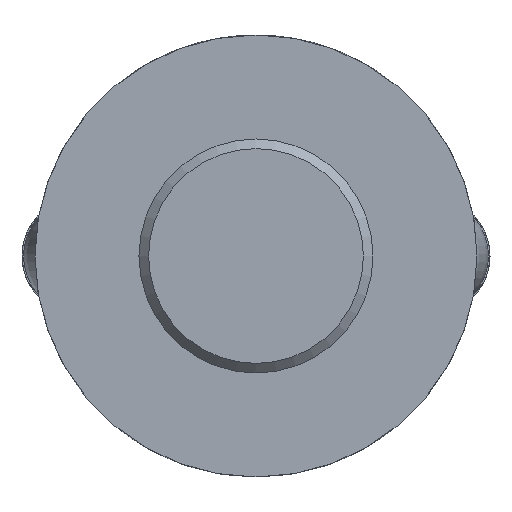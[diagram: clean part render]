
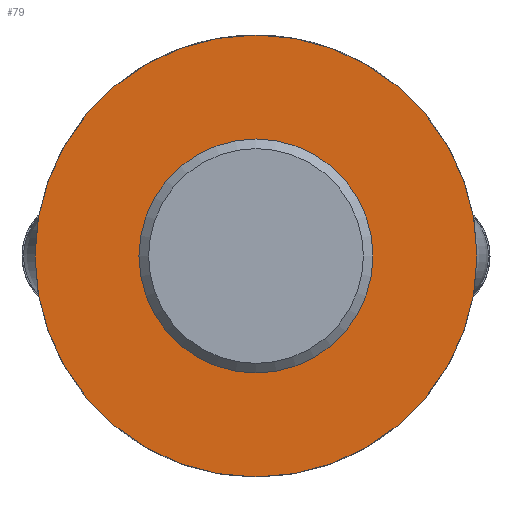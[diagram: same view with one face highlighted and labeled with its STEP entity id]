
A CAD part, front view. The second image highlights one B-rep face of the part: STEP entity #79.
In plain terms, the highlighted planar face has unit normal (0, -1, 0).
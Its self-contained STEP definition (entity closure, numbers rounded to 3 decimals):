
#79 = ADVANCED_FACE( '', ( #115, #116 ), #117, .F. );
#115 = FACE_BOUND( '', #186, .T. );
#116 = FACE_OUTER_BOUND( '', #187, .T. );
#117 = PLANE( '', #188 );
#186 = EDGE_LOOP( '', ( #276 ) );
#187 = EDGE_LOOP( '', ( #277 ) );
#188 = AXIS2_PLACEMENT_3D( '', #278, #279, #280 );
#276 = ORIENTED_EDGE( '', *, *, #464, .T. );
#277 = ORIENTED_EDGE( '', *, *, #465, .T. );
#278 = CARTESIAN_POINT( '', ( 85., 0., 0. ) );
#279 = DIRECTION( '', ( 0., 1., 0. ) );
#280 = DIRECTION( '', ( 0., 0., 1. ) );
#464 = EDGE_CURVE( '', #539, #539, #540, .T. );
#465 = EDGE_CURVE( '', #541, #541, #542, .T. );
#539 = VERTEX_POINT( '', #894 );
#540 = CIRCLE( '', #895, 45. );
#541 = VERTEX_POINT( '', #896 );
#542 = CIRCLE( '', #897, 85. );
#894 = CARTESIAN_POINT( '', ( 0., 0., 45. ) );
#895 = AXIS2_PLACEMENT_3D( '', #1251, #1252, #1253 );
#896 = CARTESIAN_POINT( '', ( 0., 0., -85. ) );
#897 = AXIS2_PLACEMENT_3D( '', #1254, #1255, #1256 );
#1251 = CARTESIAN_POINT( '', ( 0., 0., 0. ) );
#1252 = DIRECTION( '', ( 0., 1., 0. ) );
#1253 = DIRECTION( '', ( 0., 0., 1. ) );
#1254 = CARTESIAN_POINT( '', ( 0., 0., 0. ) );
#1255 = DIRECTION( '', ( 0., -1., 0. ) );
#1256 = DIRECTION( '', ( 0., 0., -1. ) );
